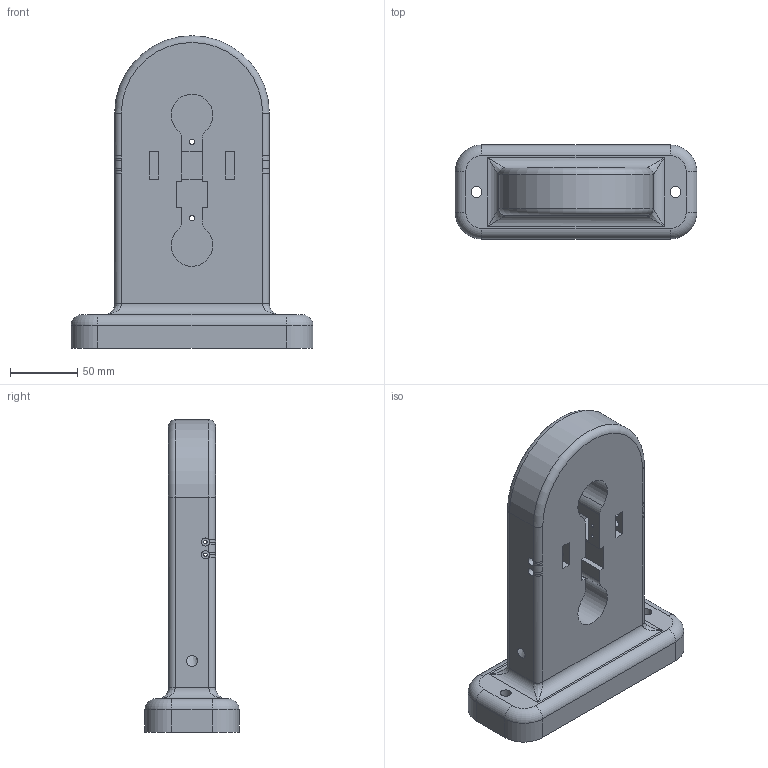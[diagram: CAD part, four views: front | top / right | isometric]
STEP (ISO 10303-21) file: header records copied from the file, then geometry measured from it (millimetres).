
FILE_DESCRIPTION(('FreeCAD Model'),'2;1');
FILE_NAME('Open CASCADE Shape Model','2026-10-05T10:56:13',(''),(''), 'Open CASCADE STEP processor 7.8','FreeCAD','Unknown');
FILE_SCHEMA(('AUTOMOTIVE_DESIGN { 1 0 10303 214 1 1 1 1 }'));
Length unit declared in the file: millimetre
Products named in the file (1): re designed end stands
Bounding box: 180 x 70 x 232.5 mm (x, y, z)
Volume: 981519.5 mm3; surface area: 107654.1 mm2
Topology: 1 solids, 1 shells, 95 faces, 255 edges, 156 vertices
Faces by surface type: cylinder 41, plane 37, bspline 10, torus 6, extrusion 1
Full cylindrical faces by diameter (mm): 2.5 x4, 4 x2, 6 x4, 8 x4
Entity records: 3551 total; most frequent: CARTESIAN_POINT 1192, ORIENTED_EDGE 502, DIRECTION 468, EDGE_CURVE 251, AXIS2_PLACEMENT_3D 163, VERTEX_POINT 156, VECTOR 142, LINE 141
